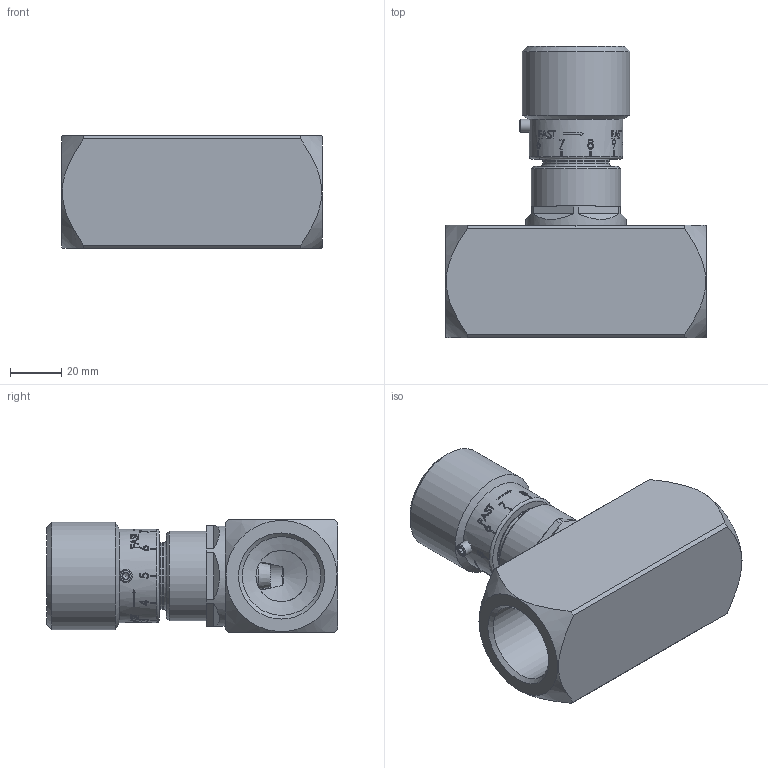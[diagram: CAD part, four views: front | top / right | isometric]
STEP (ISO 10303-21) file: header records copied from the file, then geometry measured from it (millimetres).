
FILE_DESCRIPTION (( 'STEP AP214' ), '1' );
FILE_NAME ('STBF100.STEP', '2020-06-15T12:18:23', ( '' ), ( '' ), 'SwSTEP 2.0', 'SolidWorks 2017', '' );
FILE_SCHEMA (( 'AUTOMOTIVE_DESIGN' ));
Length unit declared in the file: millimetre
Products named in the file (1): STBF100
Bounding box: 102 x 114.04 x 44 mm (x, y, z)
Volume: 206573.8 mm3; surface area: 55600.9 mm2
Topology: 7 solids, 7 shells, 623 faces, 1591 edges, 1027 vertices
Faces by surface type: plane 282, bspline 163, cylinder 113, cone 46, torus 18, sphere 1
Full cylindrical faces by diameter (mm): 2.5 x1, 4.2 x2, 5 x2, 5.3 x1, 7.8 x1, 9.5 x1, 10.4 x1, 12 x3, 12.5 x2, 12.917 x1, 13 x1, 14 x1, 16 x5, 20 x1, 22 x1, 26 x7, 27 x1, 28 x2, 28.5 x1, 30.75 x2, 35 x1, 35.2 x1, 36.5 x1, 39.5 x1, 42 x1
Entity records: 42907 total; most frequent: CARTESIAN_POINT 22754, ORIENTED_EDGE 2940, DIRECTION 2185, EDGE_CURVE 1470, VERTEX_POINT 1001, AXIS2_PLACEMENT_3D 849, EDGE_LOOP 775, FACE_OUTER_BOUND 684
